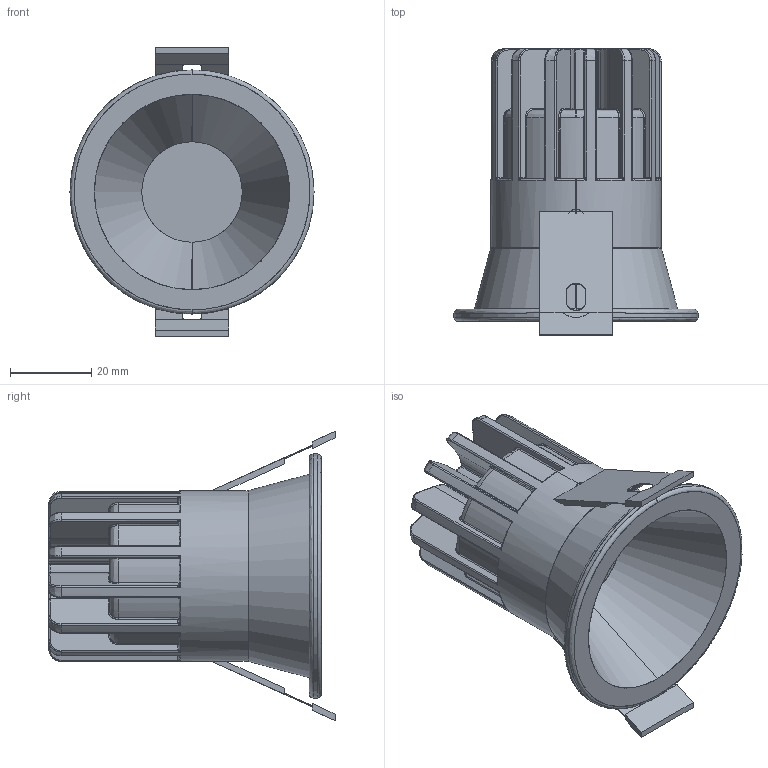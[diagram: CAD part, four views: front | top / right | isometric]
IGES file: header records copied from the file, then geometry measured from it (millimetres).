
Start section: SolidWorks IGES file using analytic representation for surfaces
Global section: file name: C:\Users\danielet\Desktop\ISMAIL\EXCEL\KIDAL-E37712-3D\KIDAL-E37712-3D.IGS; native system: SolidWorks 2018; preprocessor: SolidWorks 2018; author: danielet; date: 230324.123654; units: millimetre
Bounding box: 60 x 70.38 x 71.05 mm (x, y, z)
Surface area: 23378 mm2 (no closed solid volume)
Topology: 0 solids, 0 shells, 661 faces, 5119 edges, 5086 vertices
Faces by surface type: bspline 357, revolution 304
